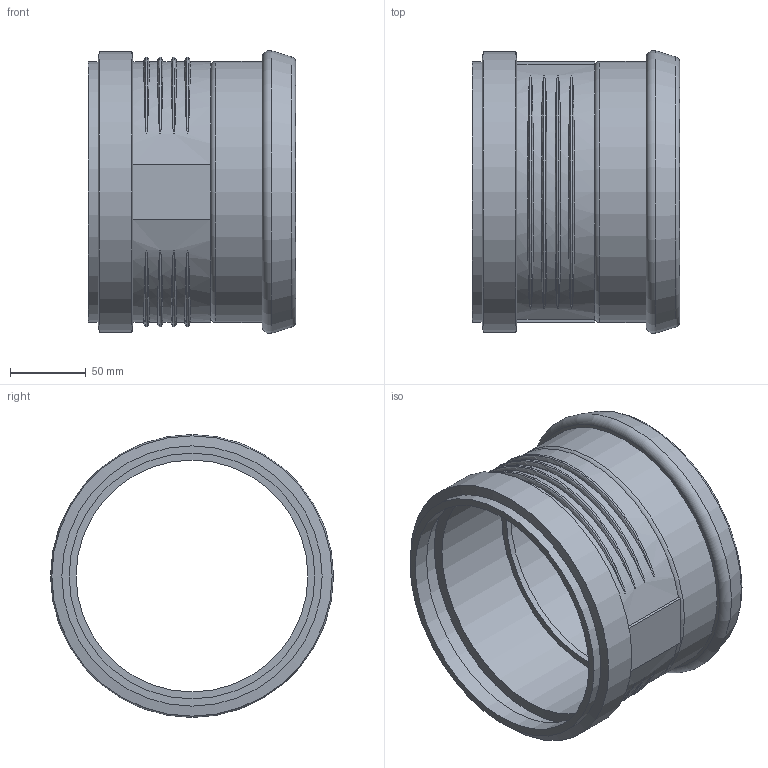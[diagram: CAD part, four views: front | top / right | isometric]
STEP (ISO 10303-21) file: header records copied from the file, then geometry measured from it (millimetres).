
FILE_DESCRIPTION(/* description */ (''),/* implementation_level */ '2;1');
FILE_NAME(/* name */ 'Z:\Geberit\Export\NewStep\390796.stp',/* time_stamp */ '2014-04-02T08:17:05+02:00',/* author */ ('Judith'),/* organization */ (''),/* preprocessor_version */ 'ST-DEVELOPER v15.2',/* originating_system */ 'Autodesk Inventor 2014',/* authorisation */ '');
FILE_SCHEMA (('AUTOMOTIVE_DESIGN { 1 0 10303 214 3 1 1 }'));
Length unit declared in the file: millimetre
Products named in the file (3): 861623; 861560; 390796
Bounding box: 136.4 x 186.2 x 186.2 mm (x, y, z)
Volume: 400638.9 mm3; surface area: 185814.2 mm2
Topology: 2 solids, 2 shells, 61 faces, 141 edges, 95 vertices
Faces by surface type: torus 29, plane 13, cylinder 11, cone 8
Full cylindrical faces by diameter (mm): 152.6 x1, 161.7 x2, 163.8 x2, 171.3 x1, 171.8 x1, 174.9 x1, 184.5 x1
Entity records: 2405 total; most frequent: CARTESIAN_POINT 1046, DIRECTION 242, ORIENTED_EDGE 236, EDGE_CURVE 118, AXIS2_PLACEMENT_3D 114, EDGE_LOOP 98, VERTEX_POINT 94, STYLED_ITEM 63
